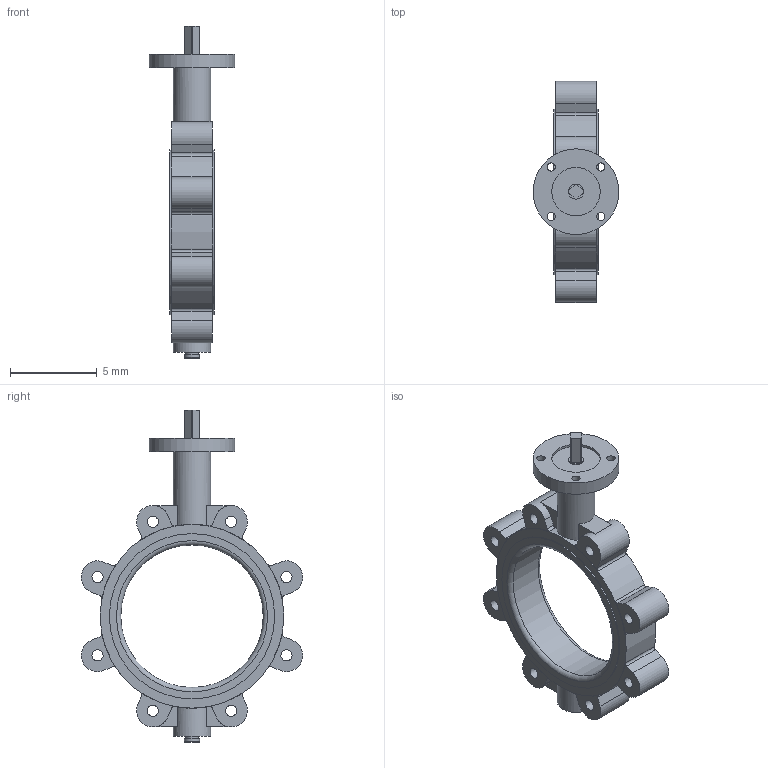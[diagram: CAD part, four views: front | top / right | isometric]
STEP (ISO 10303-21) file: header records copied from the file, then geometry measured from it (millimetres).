
FILE_DESCRIPTION(('Open CASCADE Model'),'2;1');
FILE_NAME('Open CASCADE Shape Model','2022-09-30T11:07:18',('Author'),( 'Open CASCADE'),'Open CASCADE STEP processor 7.3','Open CASCADE 7.3' ,'Unknown');
FILE_SCHEMA(('AUTOMOTIVE_DESIGN { 1 0 10303 214 1 1 1 1 }'));
Length unit declared in the file: millimetre
Products named in the file (1): Open CASCADE STEP translator 7.3 1
Bounding box: 4.92 x 12.73 x 19.09 mm (x, y, z)
Volume: 165.9 mm3; surface area: 419 mm2
Topology: 1 solids, 1 shells, 121 faces, 319 edges, 213 vertices
Faces by surface type: plane 61, cylinder 51, bspline 6, torus 2, cone 1
Full cylindrical faces by diameter (mm): 0.47 x4, 0.64 x8, 0.751 x1, 0.868 x1, 0.871 x1, 2.152 x2, 2.782 x1, 4.924 x1, 8.194 x1, 9.507 x2, 10.571 x1
Entity records: 8807 total; most frequent: CARTESIAN_POINT 2439, DIRECTION 1202, ORIENTED_EDGE 638, PCURVE 638, DEFINITIONAL_REPRESENTATION 638, LINE 598, VECTOR 598, EDGE_CURVE 319
